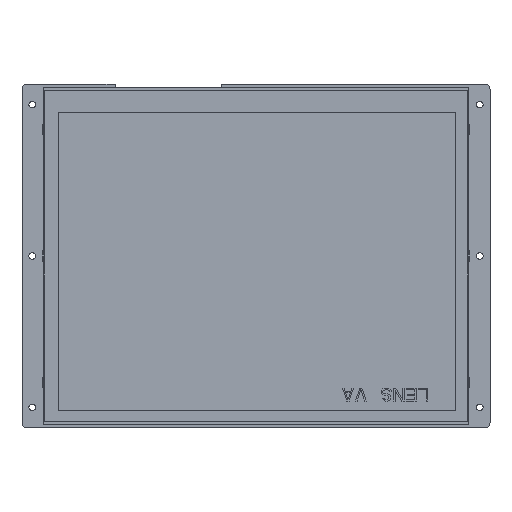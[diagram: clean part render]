
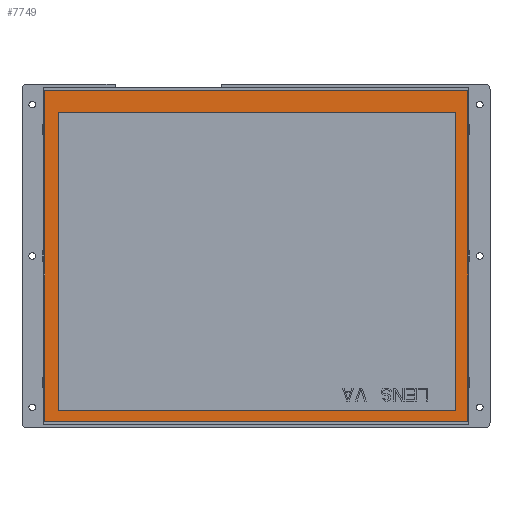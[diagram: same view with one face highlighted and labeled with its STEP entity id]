
A CAD part, front view. The second image highlights one B-rep face of the part: STEP entity #7749.
In plain terms, the highlighted planar face has unit normal (0, -1, 0) as drawn and (0, 1, 0) by its records, which use the part's own axes.
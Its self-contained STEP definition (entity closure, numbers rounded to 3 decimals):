
#5960=DIRECTION('',(0.,0.,1.));
#5961=VECTOR('',#5960,164.3);
#5962=CARTESIAN_POINT('',(-105.1,1.625,-82.15));
#5963=LINE('',#5962,#5961);
#5964=DIRECTION('',(-1.,0.,0.));
#5965=VECTOR('',#5964,210.2);
#5966=CARTESIAN_POINT('',(105.1,1.625,-82.15));
#5967=LINE('',#5966,#5965);
#5968=DIRECTION('',(0.,0.,-1.));
#5969=VECTOR('',#5968,164.3);
#5970=CARTESIAN_POINT('',(105.1,1.625,82.15));
#5971=LINE('',#5970,#5969);
#5972=DIRECTION('',(1.,0.,0.));
#5973=VECTOR('',#5972,210.2);
#5974=CARTESIAN_POINT('',(-105.1,1.625,82.15));
#5975=LINE('',#5974,#5973);
#5976=DIRECTION('',(0.,0.,1.));
#5977=VECTOR('',#5976,148.06);
#5978=CARTESIAN_POINT('',(-99.1,1.625,-76.85));
#5979=LINE('',#5978,#5977);
#5980=DIRECTION('',(1.,0.,0.));
#5981=VECTOR('',#5980,197.2);
#5982=CARTESIAN_POINT('',(-99.1,1.625,71.21));
#5983=LINE('',#5982,#5981);
#5984=DIRECTION('',(0.,0.,-1.));
#5985=VECTOR('',#5984,148.06);
#5986=CARTESIAN_POINT('',(98.1,1.625,71.21));
#5987=LINE('',#5986,#5985);
#5988=DIRECTION('',(-1.,0.,0.));
#5989=VECTOR('',#5988,197.2);
#5990=CARTESIAN_POINT('',(98.1,1.625,-76.85));
#5991=LINE('',#5990,#5989);
#7232=CARTESIAN_POINT('',(-105.1,1.625,-82.15));
#7233=CARTESIAN_POINT('',(-105.1,1.625,82.15));
#7234=VERTEX_POINT('',#7232);
#7235=VERTEX_POINT('',#7233);
#7236=CARTESIAN_POINT('',(105.1,1.625,82.15));
#7237=VERTEX_POINT('',#7236);
#7238=CARTESIAN_POINT('',(105.1,1.625,-82.15));
#7239=VERTEX_POINT('',#7238);
#7448=CARTESIAN_POINT('',(-99.1,1.625,-76.85));
#7449=CARTESIAN_POINT('',(-99.1,1.625,71.21));
#7450=VERTEX_POINT('',#7448);
#7451=VERTEX_POINT('',#7449);
#7452=CARTESIAN_POINT('',(98.1,1.625,71.21));
#7453=VERTEX_POINT('',#7452);
#7454=CARTESIAN_POINT('',(98.1,1.625,-76.85));
#7455=VERTEX_POINT('',#7454);
#7728=CARTESIAN_POINT('',(0.,1.625,0.));
#7729=DIRECTION('',(0.,1.,0.));
#7730=DIRECTION('',(1.,0.,0.));
#7731=AXIS2_PLACEMENT_3D('',#7728,#7729,#7730);
#7732=PLANE('',#7731);
#7733=ORIENTED_EDGE('',*,*,#7680,.F.);
#7734=ORIENTED_EDGE('',*,*,#7695,.F.);
#7735=ORIENTED_EDGE('',*,*,#7709,.F.);
#7736=ORIENTED_EDGE('',*,*,#7722,.F.);
#7737=EDGE_LOOP('',(#7733,#7734,#7735,#7736));
#7738=FACE_OUTER_BOUND('',#7737,.F.);
#7740=ORIENTED_EDGE('',*,*,#7739,.T.);
#7742=ORIENTED_EDGE('',*,*,#7741,.T.);
#7744=ORIENTED_EDGE('',*,*,#7743,.T.);
#7746=ORIENTED_EDGE('',*,*,#7745,.T.);
#7747=EDGE_LOOP('',(#7740,#7742,#7744,#7746));
#7748=FACE_BOUND('',#7747,.F.);
#7680=EDGE_CURVE('',#7234,#7235,#5963,.T.);
#7695=EDGE_CURVE('',#7239,#7234,#5967,.T.);
#7709=EDGE_CURVE('',#7237,#7239,#5971,.T.);
#7722=EDGE_CURVE('',#7235,#7237,#5975,.T.);
#7739=EDGE_CURVE('',#7450,#7451,#5979,.T.);
#7741=EDGE_CURVE('',#7451,#7453,#5983,.T.);
#7743=EDGE_CURVE('',#7453,#7455,#5987,.T.);
#7745=EDGE_CURVE('',#7455,#7450,#5991,.T.);
#7749=ADVANCED_FACE('',(#7738,#7748),#7732,.T.);
